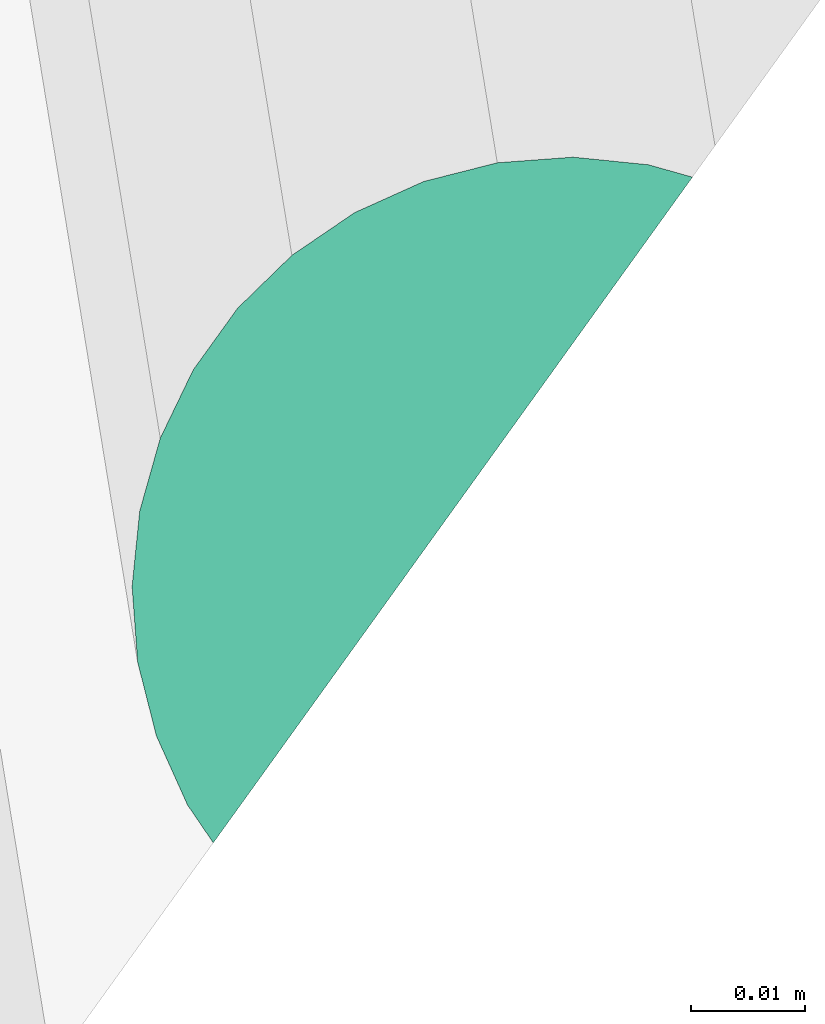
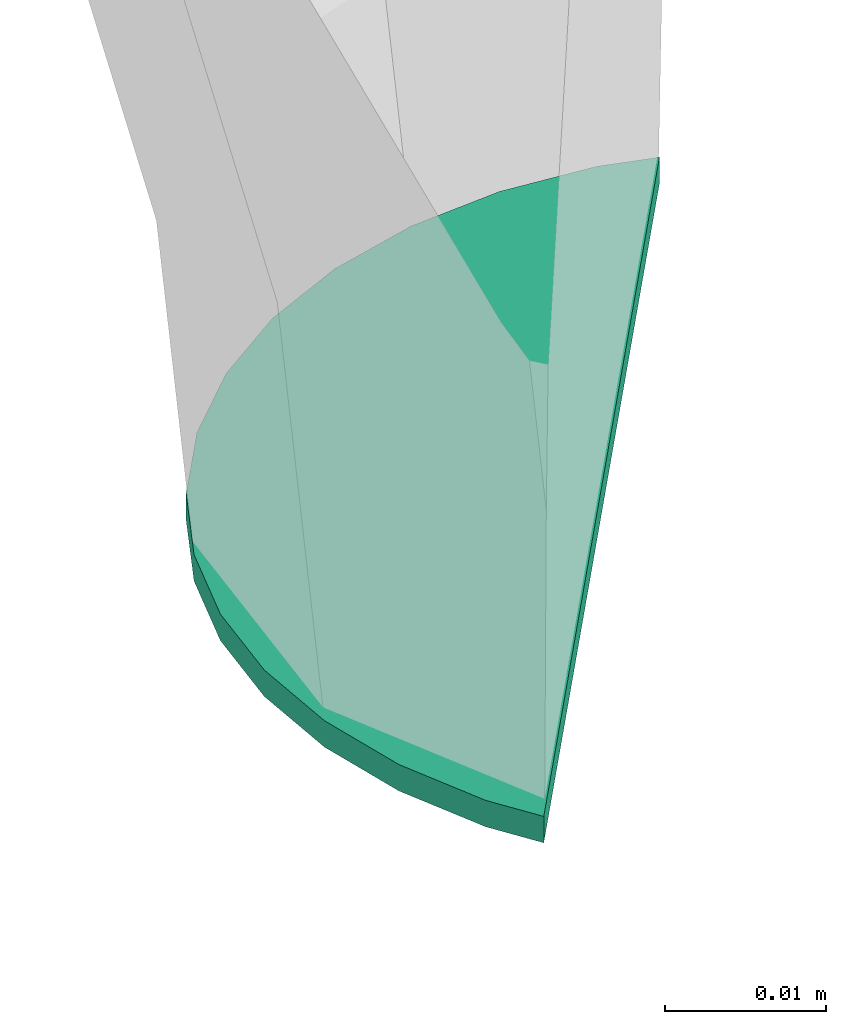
# One storey, part 46 of 46: 1 flow fitting.
"""IFC2X3 building model written with IfcOpenShell, lengths in millimetres."""

from ifc_helpers import new_model, entity, si_unit, converted_unit, derived_unit, direction, frame, origin, origin_with_axes, place, context, subcontext, project, spatial, faceted_brep, material, type_object, element, save


model = new_model("IFC2X3")

# Units and contexts
model_context = context("Model", 3, precision=0.01, world=origin(), true_north=direction((6.12323399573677e-17, 1.0)))
plan_context = context("Plan", 3, precision=1e-05, world=origin_with_axes())
body_context = subcontext(model_context, "Body", "Model", "MODEL_VIEW")
ifc_project = project(units=[converted_unit("PLANEANGLEUNIT", "DEGREE", entity("IfcPositiveLengthMeasure", 0.0174532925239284), si_unit("PLANEANGLEUNIT", "RADIAN"), dimensions=[0, 0, 0, 0, 0, 0, 0]), si_unit("AREAUNIT", "SQUARE_METRE"), si_unit("LENGTHUNIT", "METRE", prefix="MILLI"), si_unit("MASSUNIT", "GRAM", prefix="KILO"), si_unit("POWERUNIT", "WATT"), si_unit("PRESSUREUNIT", "PASCAL", prefix="KILO"), si_unit("FORCEUNIT", "NEWTON", prefix="KILO"), si_unit("ELECTRICVOLTAGEUNIT", "VOLT"), si_unit("ELECTRICCURRENTUNIT", "AMPERE"), si_unit("THERMODYNAMICTEMPERATUREUNIT", "DEGREE_CELSIUS"), si_unit("TIMEUNIT", "SECOND"), si_unit("VOLUMEUNIT", "CUBIC_METRE"), derived_unit("LINEARVELOCITYUNIT", [(si_unit("LENGTHUNIT", "METRE"), 1), (si_unit("TIMEUNIT", "SECOND"), -1)]), derived_unit("VOLUMETRICFLOWRATEUNIT", [(si_unit("VOLUMEUNIT", "CUBIC_METRE"), 1), (si_unit("TIMEUNIT", "SECOND"), -1)]), derived_unit("THERMALTRANSMITTANCEUNIT", [(si_unit("POWERUNIT", "WATT"), 1), (si_unit("THERMODYNAMICTEMPERATUREUNIT", "KELVIN"), -1), (si_unit("AREAUNIT", "SQUARE_METRE"), -1)]), derived_unit("SOUNDPRESSUREUNIT", [(si_unit("PRESSUREUNIT", "PASCAL"), 1)])], contexts=[model_context, plan_context])

# Site, building, storey
site_placement = place(None, frame((-3.09682673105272e-06, 1.93776733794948e-05, 0.0), z_axis=(0.0, 0.0, 1.0), x_axis=(-0.160806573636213, 0.986985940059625, 0.0)))
site = spatial("IfcSite", under=ifc_project, at=site_placement, Name="Default", CompositionType="ELEMENT")
building_placement = place(site_placement, frame((0.0, 0.0, 0.0), z_axis=(0.0, 0.0, 1.0), x_axis=(1.0, -2.77555756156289e-17, 0.0)))
building = spatial("IfcBuilding", under=site, at=building_placement, Name="Bygning (endres i Project Information)", CompositionType="ELEMENT")
storey_placement = place(building_placement, frame((0.0, 0.0, 51360.0000000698), z_axis=(0.0, 0.0, 1.0), x_axis=(1.0, -2.77555756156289e-17, 0.0)))
storey = spatial("IfcBuildingStorey", under=building, at=storey_placement, Name="H01-Nivå D+0,36", CompositionType="ELEMENT", Elevation=51360.0000000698)

# Flow fitting
ifc_material = material(Name="<Unnamed>")
pipe_fitting_type = type_object("IfcPipeFittingType", Name="Sveis:Sveis", PredefinedType="NOTDEFINED", material=ifc_material)
flow_fitting_placement = place(storey_placement, frame((997288.367643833, -347096.584018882, 3205.45000040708), z_axis=(0.0, 0.0, -1.0), x_axis=(-2.77555756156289e-17, -1.0, 0.0)))
element("IfcFlowFitting", 1, at=flow_fitting_placement, inside=storey, type_object=pipe_fitting_type, Name="Sveis:Sveis", ObjectType="Sveis:Sveis", context=body_context, shape_type="Brep", body=[
    faceted_brep([(-34.0645885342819, 16.6396179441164, 0.0), (-34.0645885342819, 16.6396179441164, 2.0), (-35.7553042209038, 13.0138664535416, 2.0), (-35.7553042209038, 13.0138664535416, 0.0), (-37.4719350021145, 6.60731316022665, 2.0), (-37.4719350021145, 6.60731316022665, 0.0), (-38.05, -5.68116899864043e-14, 2.0), (-38.05, -5.68116899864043e-14, 0.0), (-37.4719350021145, -6.60731316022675, 2.0), (-37.4719350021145, -6.60731316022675, 0.0), (-35.7553042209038, -13.0138664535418, 2.0), (-35.7553042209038, -13.0138664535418, 0.0), (-32.9522666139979, -19.025, 2.0), (-32.9522666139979, -19.025, 0.0), (-29.1479910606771, -24.4580685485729, 2.0), (-29.1479910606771, -24.4580685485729, 0.0), (-24.4580685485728, -29.1479910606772, 2.0), (-24.4580685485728, -29.1479910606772, 0.0), (-19.025, -32.9522666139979, 2.0), (-19.025, -32.9522666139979, 0.0), (-13.0138664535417, -35.7553042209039, 2.0), (-13.0138664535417, -35.7553042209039, 0.0), (-6.6073131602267, -37.4719350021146, 2.0), (-6.6073131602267, -37.4719350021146, 0.0), (-5.36023572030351e-15, -38.0500000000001, 2.0), (-5.36023572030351e-15, -38.0500000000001, 0.0), (6.60731316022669, -37.4719350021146, 2.0), (6.60731316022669, -37.4719350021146, 0.0), (13.0138664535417, -35.7553042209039, 2.0), (13.0138664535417, -35.7553042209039, 0.0), (16.6396179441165, -34.0645885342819, 2.0), (16.6396179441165, -34.0645885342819, 0.0)], [[[0, 1, 2, 3]], [[3, 2, 4, 5]], [[5, 4, 6, 7]], [[7, 6, 8, 9]], [[9, 8, 10, 11]], [[11, 10, 12, 13]], [[13, 12, 14, 15]], [[15, 14, 16, 17]], [[17, 16, 18, 19]], [[19, 18, 20, 21]], [[21, 20, 22, 23]], [[23, 22, 24, 25]], [[25, 24, 26, 27]], [[27, 26, 28, 29]], [[30, 31, 29, 28]], [[31, 0, 3, 5, 7, 9, 11, 13, 15, 17, 19, 21, 23, 25, 27, 29]], [[1, 30, 28, 26, 24, 22, 20, 18, 16, 14, 12, 10, 8, 6, 4, 2]], [[31, 30, 1, 0]]], orient=[[False], [False], [False], [False], [False], [False], [False], [False], [False], [False], [False], [False], [False], [False], [False], [False], [False], [False]]),
])

save(model, "model.ifc")
